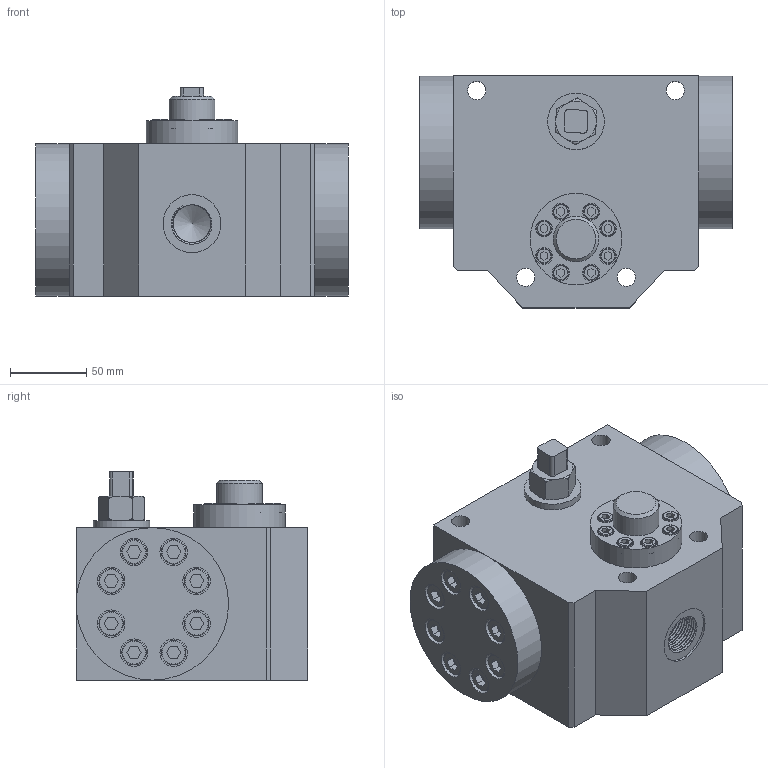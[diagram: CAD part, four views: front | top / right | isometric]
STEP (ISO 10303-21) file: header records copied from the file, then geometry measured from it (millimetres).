
FILE_DESCRIPTION(/* description */ (''),/* implementation_level */ '2;1');
FILE_NAME(/* name */ '12.prt.stp',/* time_stamp */ '2023-05-03T14:20:16+08:00',/* author */ (''),/* organization */ (''),/* preprocessor_version */ 'ST-DEVELOPER v16.7',/* originating_system */ 'SIEMENS PLM Software NX 12.0',/* authorisation */ '');
FILE_SCHEMA (('AUTOMOTIVE_DESIGN { 1 0 10303 214 3 1 1 1 }'));
Length unit declared in the file: millimetre
Products named in the file (1): 12
Bounding box: 205 x 152 x 136.5 mm (x, y, z)
Volume: 2590671.9 mm3; surface area: 275699.2 mm2
Topology: 32 solids, 32 shells, 698 faces, 1710 edges, 1135 vertices
Faces by surface type: plane 410, cylinder 191, cone 52, torus 36, bspline 9
Full cylindrical faces by diameter (mm): 5 x8, 6 x8, 7 x8, 8.5 x16, 10 x24, 11 x24, 12 x4, 16 x16, 18 x16, 30 x2, 31 x2, 37.194 x1, 38 x1, 60 x1, 100 x2
Entity records: 35691 total; most frequent: CARTESIAN_POINT 20264, DIRECTION 3149, ORIENTED_EDGE 2682, EDGE_CURVE 1341, AXIS2_PLACEMENT_3D 1178, EDGE_LOOP 1080, VERTEX_POINT 1026, LINE 793
